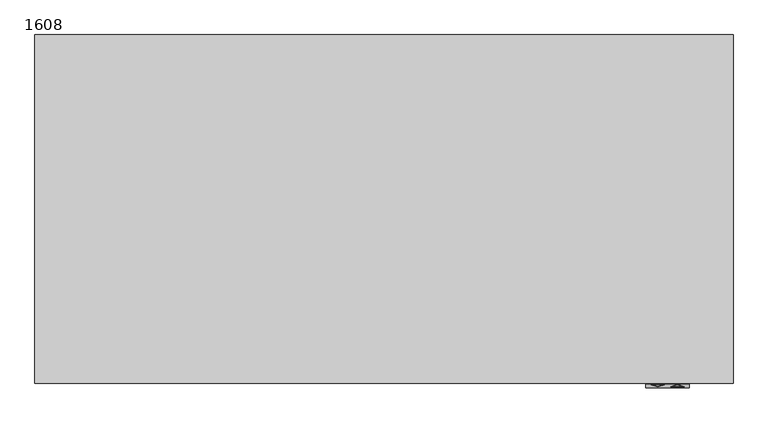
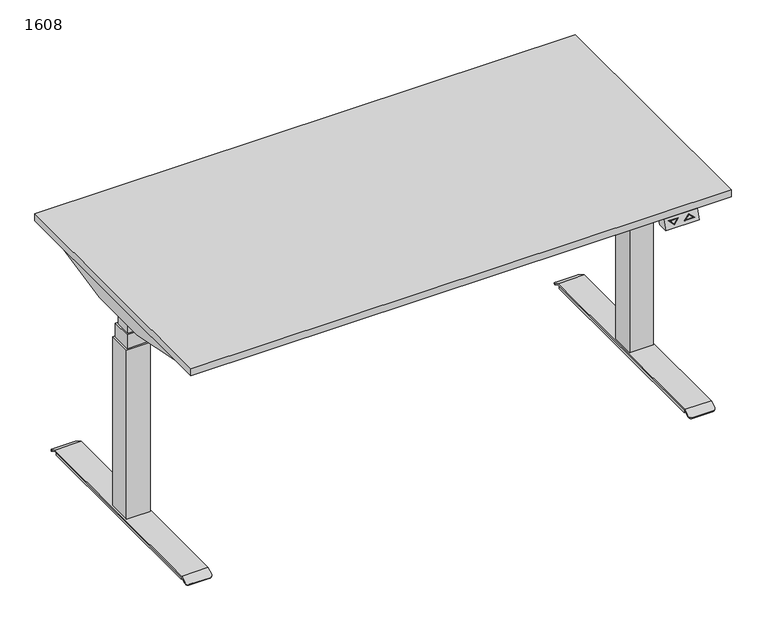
"""IFC4 building model written with IfcOpenShell, lengths in millimetres: furniture geometry, PINTA EQC : 1608."""

from ifc_helpers import new_model, si_unit, point, frame, frame_2d, origin, origin_with_axes, place, context, project, spatial, polyline, circle_curve, trimmed, segment, composite_curve, outline, extrude, faceted_brep, source, transform, mapped, element, save
from ifc_brep_helpers import plane_surface, cylinder_surface, advanced_brep


def furniture_1608_6af37094(model_context):
    return source(origin(), model_context, "Body", "SolidModel", [
        faceted_brep([(600.0, -810.0, 668.0), (600.0, -780.0, 668.0), (700.0, -780.0, 668.0), (700.0, -810.0, 668.0), (600.0, -800.0, 698.0), (700.0, -800.0, 698.0), (700.0, -770.0, 698.0), (600.0, -770.0, 698.0), (612.5, -802.6491106, 690.0526681), (642.5, -802.6491106, 690.0526681), (627.5, -807.3925271, 675.8224186), (687.5, -806.9174824, 677.2475529), (657.5, -806.9174824, 677.2475529), (672.5, -802.1740659, 691.4778023), (627.5, -806.4980999, 678.5057002), (637.6715729, -803.2815662, 688.1553015), (617.3284271, -803.2815662, 688.1553015), (682.6715729, -806.2850268, 679.1449195), (672.5, -803.0684931, 688.7945208), (662.3284271, -806.2850268, 679.1449195), (642.5, -801.7004273, 689.7364403), (612.5, -801.7004273, 689.7364403), (627.5, -806.4438438, 675.5061908), (637.6715729, -802.3328829, 687.8390737), (627.5, -805.5494166, 678.1894724), (617.3284271, -802.3328829, 687.8390737), (657.5, -805.9687991, 676.9313251), (687.5, -805.9687991, 676.9313251), (672.5, -801.2253826, 691.1615746), (672.5, -802.1198098, 688.478293), (682.6715729, -805.3363436, 678.8286917), (662.3284271, -805.3363436, 678.8286917)], [[[0, 1, 2, 3]], [[4, 5, 6, 7]], [[1, 0, 4, 7]], [[3, 2, 6, 5]], [[0, 3, 5, 4], [8, 9, 10], [11, 12, 13]], [[14, 15, 16]], [[17, 18, 19]], [[2, 1, 7, 6]], [[20, 21, 22], [23, 24, 25]], [[26, 27, 28], [29, 30, 31]], [[21, 20, 9, 8]], [[22, 21, 8, 10]], [[20, 22, 10, 9]], [[27, 26, 12, 11]], [[28, 27, 11, 13]], [[26, 28, 13, 12]], [[24, 23, 15, 14]], [[25, 24, 14, 16]], [[23, 25, 16, 15]], [[30, 29, 18, 17]], [[31, 30, 17, 19]], [[29, 31, 19, 18]]]),
        extrude(outline(polyline([(-780.0, -319.7732113), (780.0, -319.7733158), (780.0, -339.7733158), (-780.0, -339.7732113), (-780.0, -319.7732113)])), frame((0.0, 0.0, 658.0), z_axis=(0.0, 0.0, 1.0), x_axis=(1.0, 0.0, 0.0)), (0.0, 0.0, 1.0), 40.0),
        extrude(outline(polyline([(-780.0, -459.7732114), (780.0, -459.7733158), (780.0, -479.7733158), (-780.0, -479.7732114), (-780.0, -459.7732114)])), frame((0.0, 0.0, 658.0), z_axis=(0.0, 0.0, 1.0), x_axis=(1.0, 0.0, 0.0)), (0.0, 0.0, 1.0), 40.0),
        extrude(outline(polyline([(-800.0, -800.0), (-800.0, 0.0), (800.0, 0.0), (800.0, -800.0), (-800.0, -800.0)])), frame((0.0, 0.0, 698.0), z_axis=(0.0, 0.0, 1.0), x_axis=(1.0, 0.0, 0.0)), (0.0, 0.0, 1.0), 22.0),
        advanced_brep(
        [(706.9772339, -720.0, 6.0), (706.9772339, -720.0, 16.0), (706.9772339, -80.0, 16.0), (706.9772339, -80.0, 6.0), (783.0227661, -80.0, 16.0), (783.0227661, -80.0, 6.0), (783.0227661, -720.0, 16.0), (783.0227661, -720.0, 6.0), (706.0, -75.0, 20.0), (706.0, -56.9800481, 9.908827), (706.0, -58.9344616, 6.4188029), (706.0, -76.0437422, 16.0), (706.0, -723.9562578, 16.0), (706.0, -741.0655384, 6.4188029), (706.0, -743.0199519, 9.908827), (706.0, -725.0, 20.0), (784.0, -76.0437422, 16.0), (784.0, -58.9344616, 6.4188029), (784.0, -56.9800481, 9.908827), (784.0, -75.0, 20.0), (784.0, -725.0, 20.0), (784.0, -743.0199519, 9.908827), (784.0, -741.0655384, 6.4188029), (784.0, -723.9562578, 16.0), (714.0, -750.0, 6.0), (776.0, -750.0, 6.0), (714.0, -748.0455865, 2.5099759), (776.0, -748.0455865, 2.5099759), (714.0, -51.9544135, 2.5099759), (776.0, -51.9544135, 2.5099759), (714.0, -50.0, 6.0), (776.0, -50.0, 6.0)],
        [
            (0, 1),
            (1, 2),
            (2, 3),
            (3, 0),
            (2, 4),
            (4, 5),
            (5, 3),
            (4, 6),
            (6, 7),
            (7, 5),
            (6, 1),
            (0, 7),
            (8, 9),
            (9, 10),
            (10, 11),
            (11, 12),
            (12, 13),
            (13, 14),
            (14, 15),
            (15, 8),
            (16, 17),
            (17, 18),
            (18, 19),
            (19, 20),
            (20, 21),
            (21, 22),
            (22, 23),
            (23, 16),
            (15, 20),
            (19, 8),
            (11, 16),
            (23, 12),
            (14, 24, circle_curve(frame((714.0, -743.0199519, 9.908827), z_axis=(0.0, -0.4886033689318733, 0.8725060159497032), x_axis=(0.0, 0.8725060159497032, 0.4886033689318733)), 8.0)),
            (24, 25),
            (25, 21, circle_curve(frame((776.0, -743.0199519, 9.908827), z_axis=(0.0, -0.4886033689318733, 0.8725060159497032), x_axis=(0.0, 0.8725060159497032, 0.4886033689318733)), 8.0)),
            (24, 26),
            (26, 27),
            (27, 25),
            (22, 27, circle_curve(frame((776.0, -741.0655384, 6.4188029), z_axis=(0.0, 0.4886033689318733, -0.8725060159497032), x_axis=(0.0, 0.8725060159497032, 0.4886033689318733)), 8.0)),
            (26, 13, circle_curve(frame((714.0, -741.0655384, 6.4188029), z_axis=(0.0, 0.4886033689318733, -0.8725060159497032), x_axis=(0.0, 0.8725060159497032, 0.4886033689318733)), 8.0)),
            (10, 28, circle_curve(frame((714.0, -58.9344616, 6.4188029), z_axis=(0.0, -0.4886033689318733, -0.8725060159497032), x_axis=(0.0, -0.8725060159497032, 0.4886033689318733)), 8.0)),
            (28, 29),
            (29, 17, circle_curve(frame((776.0, -58.9344616, 6.4188029), z_axis=(0.0, -0.4886033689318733, -0.8725060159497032), x_axis=(0.0, -0.8725060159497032, 0.4886033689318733)), 8.0)),
            (28, 30),
            (30, 31),
            (31, 29),
            (18, 31, circle_curve(frame((776.0, -56.9800481, 9.908827), z_axis=(0.0, 0.4886033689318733, 0.8725060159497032), x_axis=(0.0, -0.8725060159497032, 0.4886033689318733)), 8.0)),
            (30, 9, circle_curve(frame((714.0, -56.9800481, 9.908827), z_axis=(0.0, 0.4886033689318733, 0.8725060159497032), x_axis=(0.0, -0.8725060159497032, 0.4886033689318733)), 8.0)),
        ],
        [
            plane_surface(frame((706.9772339, -720.0, 16.0), z_axis=(-1.0, 0.0, 0.0), x_axis=(0.0, 0.0, -1.0))),
            plane_surface(frame((706.9772339, -80.0, 16.0), z_axis=(0.0, 1.0, 0.0), x_axis=(0.0, 0.0, -1.0))),
            plane_surface(frame((783.0227661, -80.0, 16.0), z_axis=(1.0, 0.0, 0.0), x_axis=(0.0, 0.0, -1.0))),
            plane_surface(frame((783.0227661, -720.0, 16.0), z_axis=(0.0, -1.0, 0.0), x_axis=(0.0, 0.0, -1.0))),
            plane_surface(frame((706.9772339, -723.4188232, 6.0), z_axis=(0.0, 0.0, -1.0), x_axis=(0.0, -1.0, 0.0))),
            plane_surface(frame((706.0, -400.0, 20.0), z_axis=(-1.0, 0.0, 0.0), x_axis=(0.0, -1.0, 0.0))),
            plane_surface(frame((784.0, -400.0, 20.0), z_axis=(1.0, 0.0, 0.0), x_axis=(0.0, 1.0, 0.0))),
            plane_surface(frame((706.0, -75.0, 20.0), z_axis=(0.0, 0.0, 1.0), x_axis=(1.0, 0.0, 0.0))),
            plane_surface(frame((706.0, -723.9562578, 16.0), z_axis=(0.0, 0.0, -1.0), x_axis=(1.0, 0.0, 0.0))),
            plane_surface(frame((706.0, -725.0, 20.0), z_axis=(0.0, -0.4886033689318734, 0.8725060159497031), x_axis=(1.0, 0.0, 0.0))),
            plane_surface(frame((706.0, -750.0, 6.0), z_axis=(0.0, -0.872506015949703, -0.4886033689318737), x_axis=(1.0, 0.0, 0.0))),
            plane_surface(frame((706.0, -748.0455865, 2.5099759), z_axis=(0.0, 0.4886033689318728, -0.8725060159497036), x_axis=(1.0, 0.0, 0.0))),
            plane_surface(frame((706.0, -76.0437422, 16.0), z_axis=(0.0, -0.4886033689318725, -0.8725060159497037), x_axis=(1.0, 0.0, 0.0))),
            plane_surface(frame((706.0, -51.9544135, 2.5099759), z_axis=(0.0, 0.8725060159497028, -0.48860336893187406), x_axis=(1.0, 0.0, 0.0))),
            plane_surface(frame((706.0, -50.0, 6.0), z_axis=(0.0, 0.48860336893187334, 0.8725060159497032), x_axis=(1.0, 0.0, 0.0))),
            cylinder_surface(frame((714.0, -743.0199519, 9.908827), z_axis=(0.0, -0.4886033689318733, 0.8725060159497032), x_axis=(0.0, 0.8725060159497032, 0.4886033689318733)), 8.0),
            cylinder_surface(frame((776.0, -743.0199519, 9.908827), z_axis=(0.0, -0.4886033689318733, 0.8725060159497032), x_axis=(0.0, 0.8725060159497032, 0.4886033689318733)), 8.0),
            cylinder_surface(frame((714.0, -56.9800481, 9.908827), z_axis=(0.0, 0.4886033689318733, 0.8725060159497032), x_axis=(0.0, -0.8725060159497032, 0.4886033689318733)), 8.0),
            cylinder_surface(frame((776.0, -56.9800481, 9.908827), z_axis=(0.0, 0.4886033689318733, 0.8725060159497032), x_axis=(0.0, -0.8725060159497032, 0.4886033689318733)), 8.0),
        ],
        [
            (0, [[1, 2, 3, 4]]),
            (1, [[-3, 5, 6, 7]]),
            (2, [[-6, 8, 9, 10]]),
            (3, [[-9, 11, -1, 12]]),
            (4, [[-4, -7, -10, -12]]),
            (5, [[13, 14, 15, 16, 17, 18, 19, 20]]),
            (6, [[21, 22, 23, 24, 25, 26, 27, 28]]),
            (7, [[29, -24, 30, -20]]),
            (8, [[31, -28, 32, -16], [-11, -8, -5, -2]]),
            (9, [[-19, 33, 34, 35, -25, -29]]),
            (10, [[36, 37, 38, -34]]),
            (11, [[-27, 39, -37, 40, -17, -32]]),
            (12, [[-15, 41, 42, 43, -21, -31]]),
            (13, [[44, 45, 46, -42]]),
            (14, [[-23, 47, -45, 48, -13, -30]]),
            (15, [[-40, -36, -33, -18]]),
            (16, [[-35, -38, -39, -26]]),
            (17, [[-48, -44, -41, -14]]),
            (18, [[-43, -46, -47, -22]]),
        ],
    ),
        faceted_brep([(579.4551307, -460.0, 698.0), (762.9996948, -460.0, 698.0), (762.9996948, -700.0, 698.0), (779.4551307, -700.0, 698.0), (783.0, -700.0, 698.0), (783.0, -100.0, 698.0), (779.4551307, -100.0, 698.0), (762.9996948, -100.0, 698.0), (762.9996948, -340.0, 698.0), (579.4551307, -340.0, 698.0), (579.4551307, -460.0, 635.2327881), (579.4551307, -340.0, 635.2327881), (779.4551307, -340.0, 635.2327881), (779.4551307, -303.8252348, 635.2327881), (783.0, -303.8252348, 635.2327881), (783.0, -496.1747652, 635.2327881), (779.4551307, -496.1747652, 635.2327881), (779.4551307, -460.0, 635.2327881), (762.9996948, -340.0, 694.9093018), (779.4551307, -340.0, 694.9093018), (779.4551307, -460.0, 694.9093018), (762.9996948, -460.0, 694.9093018), (779.4551307, -700.0, 694.9093018), (762.9996948, -700.0, 694.9093018), (779.4551307, -100.0, 694.9093018), (762.9996948, -100.0, 694.9093018), (779.4551307, -101.1249222, 694.9093018), (779.4551307, -698.8750778, 694.9093018), (779.4551307, -108.5505036, 674.5076845), (779.4551307, -691.4494964, 674.5076845), (783.0, -108.5505036, 674.5076845), (783.0, -691.4494964, 674.5076845)], [[[0, 1, 2, 3, 4, 5, 6, 7, 8, 9]], [[10, 11, 12, 13, 14, 15, 16, 17]], [[9, 11, 10, 0]], [[11, 9, 8, 18, 19, 12]], [[17, 20, 21, 1, 0, 10]], [[22, 3, 2, 23]], [[24, 25, 7, 6]], [[24, 26, 19, 18, 25]], [[23, 21, 20, 27, 22]], [[2, 1, 21, 23]], [[25, 18, 8, 7]], [[13, 12, 19, 26, 28]], [[29, 27, 20, 17, 16]], [[15, 14, 30, 5, 4, 31]], [[16, 15, 31, 29]], [[22, 27, 3]], [[6, 26, 24]], [[4, 3, 27, 29, 31]], [[28, 30, 14, 13]], [[30, 28, 26, 6, 5]]]),
        extrude(outline(composite_curve([segment(trimmed(circle_curve(frame_2d((745.0, -705.0)), 25.0), [point((770.0, -705.0))], [point((720.0, -705.0))], False, "CARTESIAN"), True, "CONTINUOUS"), segment(trimmed(circle_curve(frame_2d((745.0, -705.0)), 25.0), [point((720.0, -705.0))], [point((770.0, -705.0))], False, "CARTESIAN"), True, "CONTINUOUS")], self_intersect=False)), origin_with_axes(), (0.0, 0.0, 1.0), 6.0),
        extrude(outline(composite_curve([segment(trimmed(circle_curve(frame_2d((745.0, -95.0)), 25.0), [point((770.0, -95.0))], [point((720.0, -95.0))], False, "CARTESIAN"), True, "CONTINUOUS"), segment(trimmed(circle_curve(frame_2d((745.0, -95.0)), 25.0), [point((720.0, -95.0))], [point((770.0, -95.0))], False, "CARTESIAN"), True, "CONTINUOUS")], self_intersect=False)), origin_with_axes(), (0.0, 0.0, 1.0), 6.0),
        faceted_brep([(710.0, -365.0, 550.0), (710.0, -434.9621325, 550.0), (780.0, -434.9621325, 550.0), (780.0, -365.0, 550.0), (775.0, -370.0, 550.0), (775.0, -429.9621325, 550.0), (715.0, -429.9621325, 550.0), (715.0, -370.0, 550.0), (710.0, -365.0, 20.0), (780.0, -365.0, 20.0), (780.0, -434.9621325, 20.0), (710.0, -434.9621325, 20.0), (715.0, -370.0, 592.616394), (715.0, -429.9621325, 592.616394), (775.0, -429.9621325, 592.616394), (775.0, -370.0, 592.616394), (770.0, -375.0, 592.616394), (770.0, -424.9621325, 592.616394), (720.0, -424.9621325, 592.616394), (720.0, -375.0, 592.616394), (720.0, -375.0, 635.2327881), (720.0, -424.9621325, 635.2327881), (770.0, -424.9621325, 635.2327881), (770.0, -375.0, 635.2327881)], [[[0, 1, 2, 3], [4, 5, 6, 7]], [[8, 9, 10, 11]], [[3, 9, 8, 0]], [[2, 10, 9, 3]], [[1, 11, 10, 2]], [[0, 8, 11, 1]], [[12, 13, 14, 15], [16, 17, 18, 19]], [[15, 4, 7, 12]], [[14, 5, 4, 15]], [[13, 6, 5, 14]], [[12, 7, 6, 13]], [[20, 21, 22, 23]], [[23, 16, 19, 20]], [[22, 17, 16, 23]], [[21, 18, 17, 22]], [[20, 19, 18, 21]]]),
        advanced_brep(
        [(-706.9772339, -720.0, 6.0), (-706.9772339, -80.0, 6.0), (-706.9772339, -80.0, 16.0), (-706.9772339, -720.0, 16.0), (-783.0227661, -80.0, 6.0), (-783.0227661, -80.0, 16.0), (-783.0227661, -720.0, 6.0), (-783.0227661, -720.0, 16.0), (-706.0, -75.0, 20.0), (-706.0, -725.0, 20.0), (-706.0, -743.0199519, 9.908827), (-706.0, -741.0655384, 6.4188029), (-706.0, -723.9562578, 16.0), (-706.0, -76.0437422, 16.0), (-706.0, -58.9344616, 6.4188029), (-706.0, -56.9800481, 9.908827), (-784.0, -76.0437422, 16.0), (-784.0, -723.9562578, 16.0), (-784.0, -741.0655384, 6.4188029), (-784.0, -743.0199519, 9.908827), (-784.0, -725.0, 20.0), (-784.0, -75.0, 20.0), (-784.0, -56.9800481, 9.908827), (-784.0, -58.9344616, 6.4188029), (-776.0, -750.0, 6.0), (-714.0, -750.0, 6.0), (-776.0, -748.0455865, 2.5099759), (-714.0, -748.0455865, 2.5099759), (-776.0, -51.9544135, 2.5099759), (-714.0, -51.9544135, 2.5099759), (-776.0, -50.0, 6.0), (-714.0, -50.0, 6.0)],
        [
            (0, 1),
            (1, 2),
            (2, 3),
            (3, 0),
            (1, 4),
            (4, 5),
            (5, 2),
            (4, 6),
            (6, 7),
            (7, 5),
            (6, 0),
            (3, 7),
            (8, 9),
            (9, 10),
            (10, 11),
            (11, 12),
            (12, 13),
            (13, 14),
            (14, 15),
            (15, 8),
            (16, 17),
            (17, 18),
            (18, 19),
            (19, 20),
            (20, 21),
            (21, 22),
            (22, 23),
            (23, 16),
            (8, 21),
            (20, 9),
            (12, 17),
            (16, 13),
            (19, 24, circle_curve(frame((-776.0, -743.0199519, 9.908827), z_axis=(0.0, -0.4886033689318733, 0.8725060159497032), x_axis=(0.0, 0.8725060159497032, 0.4886033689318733)), 8.0)),
            (24, 25),
            (25, 10, circle_curve(frame((-714.0, -743.0199519, 9.908827), z_axis=(0.0, -0.4886033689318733, 0.8725060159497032), x_axis=(0.0, 0.8725060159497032, 0.4886033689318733)), 8.0)),
            (24, 26),
            (26, 27),
            (27, 25),
            (11, 27, circle_curve(frame((-714.0, -741.0655384, 6.4188029), z_axis=(0.0, 0.4886033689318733, -0.8725060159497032), x_axis=(0.0, 0.8725060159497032, 0.4886033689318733)), 8.0)),
            (26, 18, circle_curve(frame((-776.0, -741.0655384, 6.4188029), z_axis=(0.0, 0.4886033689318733, -0.8725060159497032), x_axis=(0.0, 0.8725060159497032, 0.4886033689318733)), 8.0)),
            (23, 28, circle_curve(frame((-776.0, -58.9344616, 6.4188029), z_axis=(0.0, -0.4886033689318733, -0.8725060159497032), x_axis=(0.0, -0.8725060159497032, 0.4886033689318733)), 8.0)),
            (28, 29),
            (29, 14, circle_curve(frame((-714.0, -58.9344616, 6.4188029), z_axis=(0.0, -0.4886033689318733, -0.8725060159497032), x_axis=(0.0, -0.8725060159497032, 0.4886033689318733)), 8.0)),
            (28, 30),
            (30, 31),
            (31, 29),
            (15, 31, circle_curve(frame((-714.0, -56.9800481, 9.908827), z_axis=(0.0, 0.4886033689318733, 0.8725060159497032), x_axis=(0.0, -0.8725060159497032, 0.4886033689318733)), 8.0)),
            (30, 22, circle_curve(frame((-776.0, -56.9800481, 9.908827), z_axis=(0.0, 0.4886033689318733, 0.8725060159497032), x_axis=(0.0, -0.8725060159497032, 0.4886033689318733)), 8.0)),
        ],
        [
            plane_surface(frame((-706.9772339, -720.0, 16.0), z_axis=(1.0, 0.0, 0.0), x_axis=(0.0, 0.0, -1.0))),
            plane_surface(frame((-706.9772339, -80.0, 16.0), z_axis=(0.0, 1.0, 0.0), x_axis=(0.0, 0.0, -1.0))),
            plane_surface(frame((-783.0227661, -80.0, 16.0), z_axis=(-1.0, 0.0, 0.0), x_axis=(0.0, 0.0, -1.0))),
            plane_surface(frame((-783.0227661, -720.0, 16.0), z_axis=(0.0, -1.0, 0.0), x_axis=(0.0, 0.0, -1.0))),
            plane_surface(frame((-706.9772339, -723.4188232, 6.0), z_axis=(0.0, 0.0, -1.0), x_axis=(0.0, -1.0, 0.0))),
            plane_surface(frame((-706.0, -400.0, 20.0), z_axis=(1.0, 0.0, 0.0), x_axis=(0.0, -1.0, 0.0))),
            plane_surface(frame((-784.0, -400.0, 20.0), z_axis=(-1.0, 0.0, 0.0), x_axis=(0.0, 1.0, 0.0))),
            plane_surface(frame((-706.0, -75.0, 20.0), z_axis=(0.0, 0.0, 1.0), x_axis=(-1.0, 0.0, 0.0))),
            plane_surface(frame((-706.0, -723.9562578, 16.0), z_axis=(0.0, 0.0, -1.0), x_axis=(-1.0, 0.0, 0.0))),
            plane_surface(frame((-706.0, -725.0, 20.0), z_axis=(0.0, -0.4886033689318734, 0.8725060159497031), x_axis=(-1.0, 0.0, 0.0))),
            plane_surface(frame((-706.0, -750.0, 6.0), z_axis=(0.0, -0.872506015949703, -0.4886033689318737), x_axis=(-1.0, 0.0, 0.0))),
            plane_surface(frame((-706.0, -748.0455865, 2.5099759), z_axis=(0.0, 0.4886033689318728, -0.8725060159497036), x_axis=(-1.0, 0.0, 0.0))),
            plane_surface(frame((-706.0, -76.0437422, 16.0), z_axis=(0.0, -0.4886033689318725, -0.8725060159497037), x_axis=(-1.0, 0.0, 0.0))),
            plane_surface(frame((-706.0, -51.9544135, 2.5099759), z_axis=(0.0, 0.8725060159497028, -0.48860336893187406), x_axis=(-1.0, 0.0, 0.0))),
            plane_surface(frame((-706.0, -50.0, 6.0), z_axis=(0.0, 0.48860336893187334, 0.8725060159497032), x_axis=(-1.0, 0.0, 0.0))),
            cylinder_surface(frame((-714.0, -743.0199519, 9.908827), z_axis=(0.0, -0.4886033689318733, 0.8725060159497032), x_axis=(0.0, 0.8725060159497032, 0.4886033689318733)), 8.0),
            cylinder_surface(frame((-776.0, -743.0199519, 9.908827), z_axis=(0.0, -0.4886033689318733, 0.8725060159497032), x_axis=(0.0, 0.8725060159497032, 0.4886033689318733)), 8.0),
            cylinder_surface(frame((-714.0, -56.9800481, 9.908827), z_axis=(0.0, 0.4886033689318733, 0.8725060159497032), x_axis=(0.0, -0.8725060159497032, 0.4886033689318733)), 8.0),
            cylinder_surface(frame((-776.0, -56.9800481, 9.908827), z_axis=(0.0, 0.4886033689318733, 0.8725060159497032), x_axis=(0.0, -0.8725060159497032, 0.4886033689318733)), 8.0),
        ],
        [
            (0, [[1, 2, 3, 4]]),
            (1, [[5, 6, 7, -2]]),
            (2, [[8, 9, 10, -6]]),
            (3, [[11, -4, 12, -9]]),
            (4, [[-11, -8, -5, -1]]),
            (5, [[13, 14, 15, 16, 17, 18, 19, 20]]),
            (6, [[21, 22, 23, 24, 25, 26, 27, 28]]),
            (7, [[-13, 29, -25, 30]]),
            (8, [[-17, 31, -21, 32], [-3, -7, -10, -12]]),
            (9, [[-30, -24, 33, 34, 35, -14]]),
            (10, [[-34, 36, 37, 38]]),
            (11, [[-31, -16, 39, -37, 40, -22]]),
            (12, [[-32, -28, 41, 42, 43, -18]]),
            (13, [[-42, 44, 45, 46]]),
            (14, [[-29, -20, 47, -45, 48, -26]]),
            (15, [[-15, -35, -38, -39]]),
            (16, [[-23, -40, -36, -33]]),
            (17, [[-19, -43, -46, -47]]),
            (18, [[-27, -48, -44, -41]]),
        ],
    ),
        faceted_brep([(-579.4551307, -460.0, 698.0), (-579.4551307, -340.0, 698.0), (-762.9996948, -340.0, 698.0), (-762.9996948, -100.0, 698.0), (-779.4551307, -100.0, 698.0), (-783.0, -100.0, 698.0), (-783.0, -700.0, 698.0), (-779.4551307, -700.0, 698.0), (-762.9996948, -700.0, 698.0), (-762.9996948, -460.0, 698.0), (-579.4551307, -460.0, 635.2327881), (-779.4551307, -460.0, 635.2327881), (-779.4551307, -496.1747652, 635.2327881), (-783.0, -496.1747652, 635.2327881), (-783.0, -303.8252348, 635.2327881), (-779.4551307, -303.8252348, 635.2327881), (-779.4551307, -340.0, 635.2327881), (-579.4551307, -340.0, 635.2327881), (-779.4551307, -340.0, 694.9093018), (-762.9996948, -340.0, 694.9093018), (-762.9996948, -460.0, 694.9093018), (-779.4551307, -460.0, 694.9093018), (-779.4551307, -700.0, 694.9093018), (-762.9996948, -700.0, 694.9093018), (-779.4551307, -100.0, 694.9093018), (-762.9996948, -100.0, 694.9093018), (-779.4551307, -698.8750778, 694.9093018), (-779.4551307, -101.1249222, 694.9093018), (-779.4551307, -691.4494964, 674.5076845), (-779.4551307, -108.5505036, 674.5076845), (-783.0, -691.4494964, 674.5076845), (-783.0, -108.5505036, 674.5076845)], [[[0, 1, 2, 3, 4, 5, 6, 7, 8, 9]], [[10, 11, 12, 13, 14, 15, 16, 17]], [[1, 0, 10, 17]], [[17, 16, 18, 19, 2, 1]], [[11, 10, 0, 9, 20, 21]], [[22, 23, 8, 7]], [[24, 4, 3, 25]], [[23, 22, 26, 21, 20]], [[24, 25, 19, 18, 27]], [[8, 23, 20, 9]], [[25, 3, 2, 19]], [[28, 12, 11, 21, 26]], [[15, 29, 27, 18, 16]], [[13, 30, 6, 5, 31, 14]], [[12, 28, 30, 13]], [[22, 7, 26]], [[4, 24, 27]], [[6, 30, 28, 26, 7]], [[29, 15, 14, 31]], [[31, 5, 4, 27, 29]]]),
        extrude(outline(composite_curve([segment(trimmed(circle_curve(frame_2d((-745.0, -705.0)), 25.0), [point((-770.0, -705.0))], [point((-720.0, -705.0))], False, "CARTESIAN"), True, "CONTINUOUS"), segment(trimmed(circle_curve(frame_2d((-745.0, -705.0)), 25.0), [point((-720.0, -705.0))], [point((-770.0, -705.0))], False, "CARTESIAN"), True, "CONTINUOUS")], self_intersect=False)), origin_with_axes(), (0.0, 0.0, 1.0), 6.0),
        extrude(outline(composite_curve([segment(trimmed(circle_curve(frame_2d((-745.0, -95.0)), 25.0), [point((-770.0, -95.0))], [point((-720.0, -95.0))], False, "CARTESIAN"), True, "CONTINUOUS"), segment(trimmed(circle_curve(frame_2d((-745.0, -95.0)), 25.0), [point((-720.0, -95.0))], [point((-770.0, -95.0))], False, "CARTESIAN"), True, "CONTINUOUS")], self_intersect=False)), origin_with_axes(), (0.0, 0.0, 1.0), 6.0),
        faceted_brep([(-710.0, -365.0, 550.0), (-780.0, -365.0, 550.0), (-780.0, -434.9621325, 550.0), (-710.0, -434.9621325, 550.0), (-775.0, -370.0, 550.0), (-715.0, -370.0, 550.0), (-715.0, -429.9621325, 550.0), (-775.0, -429.9621325, 550.0), (-710.0, -365.0, 20.0), (-710.0, -434.9621325, 20.0), (-780.0, -434.9621325, 20.0), (-780.0, -365.0, 20.0), (-715.0, -370.0, 592.616394), (-775.0, -370.0, 592.616394), (-775.0, -429.9621325, 592.616394), (-715.0, -429.9621325, 592.616394), (-770.0, -375.0, 592.616394), (-720.0, -375.0, 592.616394), (-720.0, -424.9621325, 592.616394), (-770.0, -424.9621325, 592.616394), (-720.0, -375.0, 635.2327881), (-770.0, -375.0, 635.2327881), (-770.0, -424.9621325, 635.2327881), (-720.0, -424.9621325, 635.2327881)], [[[0, 1, 2, 3], [4, 5, 6, 7]], [[8, 9, 10, 11]], [[1, 0, 8, 11]], [[2, 1, 11, 10]], [[3, 2, 10, 9]], [[0, 3, 9, 8]], [[12, 13, 14, 15], [16, 17, 18, 19]], [[13, 12, 5, 4]], [[14, 13, 4, 7]], [[15, 14, 7, 6]], [[12, 15, 6, 5]], [[20, 21, 22, 23]], [[21, 20, 17, 16]], [[22, 21, 16, 19]], [[23, 22, 19, 18]], [[20, 23, 18, 17]]]),
    ])


if __name__ == "__main__":
    model = new_model("IFC4")
    model_context = context("Model", 3, world=origin())
    ifc_project = project(units=[si_unit("LENGTHUNIT", "METRE", prefix="MILLI")], contexts=[model_context])
    site = spatial("IfcSite", under=ifc_project)
    building = spatial("IfcBuilding", under=site)
    placement = place(None, origin())
    furniture_1608_shape = furniture_1608_6af37094(model_context)
    element("IfcFurniture", 1, ObjectType="PINTA EQC : 1608", at=placement, inside=building, context=model_context, shape_type="MappedRepresentation", body=[
        mapped(furniture_1608_shape, transform((0.0, 0.0, 0.0), x_axis=(1.0, 0.0, 0.0), y_axis=(0.0, 1.0, 0.0), z_axis=(0.0, 0.0, 1.0))),
    ])
    save(model, "model.ifc")
